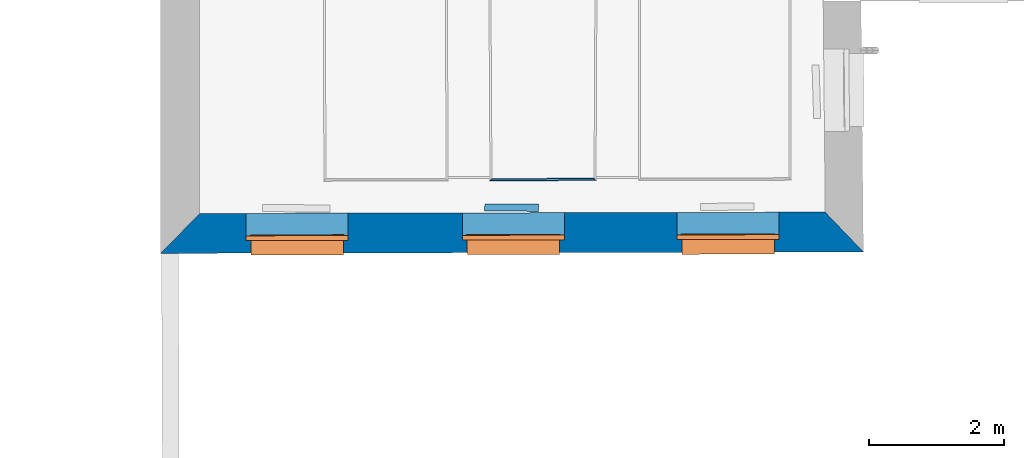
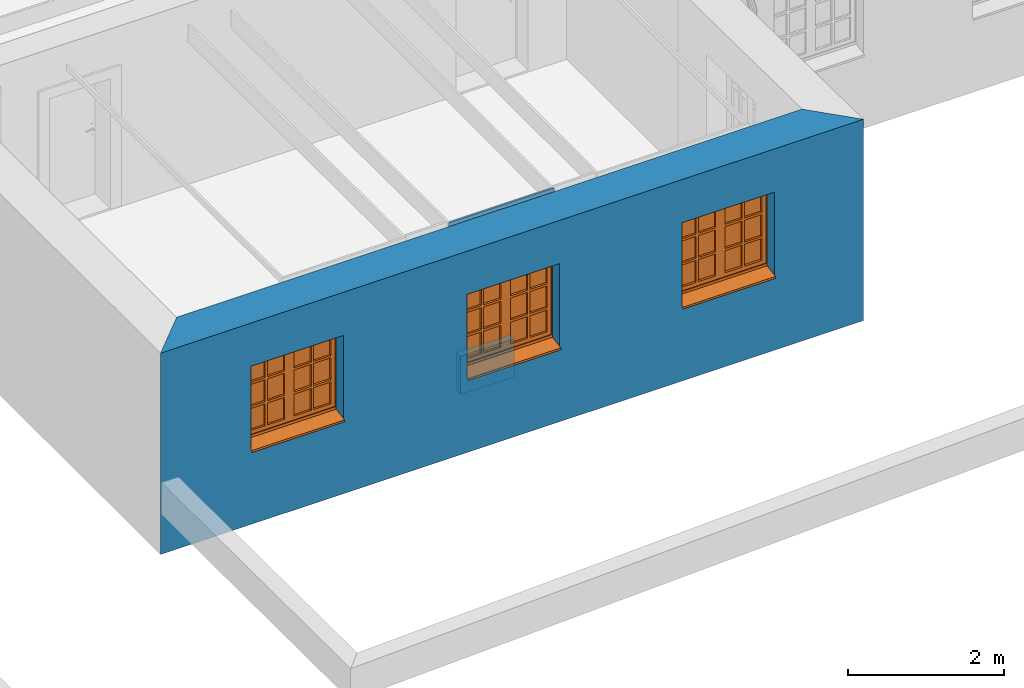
# One storey, part 18 of 196: 3 proxies, 3 walls, 3 openings.
"""IFC2X3 building model written with IfcOpenShell, lengths in metres."""

from ifc_helpers import new_model, entity, si_unit, converted_unit, derived_unit, money_unit, direction, frame, origin_with_axes, origin_2d_with_axis, place, context, subcontext, project, spatial, polyline, rectangle, outline, extrude, open_shell, faceted_brep, surface_model, source, transform, mapped, material, layer, layer_set, layer_usage, type_object, element, fill, save


model = new_model("IFC2X3")

# Units and contexts
model_context = context("Model", 3, precision=1e-05, world=origin_with_axes(), true_north=direction((0.0, 1.0)))
body_context = subcontext(model_context, "Body", "Model", "MODEL_VIEW")
ifc_project = project(units=[si_unit("LENGTHUNIT", "METRE"), si_unit("AREAUNIT", "SQUARE_METRE"), si_unit("VOLUMEUNIT", "CUBIC_METRE"), converted_unit("PLANEANGLEUNIT", "DEGREE", entity("IfcPlaneAngleMeasure", 0.0174532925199), si_unit("PLANEANGLEUNIT", "RADIAN"), dimensions=[0, 0, 0, 0, 0, 0, 0]), money_unit("EUR"), converted_unit("TIMEUNIT", "Year", entity("IfcTimeMeasure", 31556926.0), si_unit("TIMEUNIT", "SECOND"), dimensions=[0, 0, 1, 0, 0, 0, 0]), si_unit("MASSUNIT", "GRAM", prefix="KILO"), si_unit("THERMODYNAMICTEMPERATUREUNIT", "DEGREE_CELSIUS"), si_unit("LUMINOUSINTENSITYUNIT", "LUMEN"), si_unit("ENERGYUNIT", "JOULE", prefix="MEGA"), derived_unit("THERMALCONDUCTANCEUNIT", [(si_unit("POWERUNIT", "WATT"), 1), (si_unit("LENGTHUNIT", "METRE"), -1), (si_unit("THERMODYNAMICTEMPERATUREUNIT", "KELVIN"), -1)]), derived_unit("SPECIFICHEATCAPACITYUNIT", [(si_unit("ENERGYUNIT", "JOULE"), 1), (si_unit("MASSUNIT", "GRAM", prefix="KILO"), -1), (si_unit("THERMODYNAMICTEMPERATUREUNIT", "KELVIN"), -1)]), derived_unit("MASSDENSITYUNIT", [(si_unit("MASSUNIT", "GRAM", prefix="KILO"), 1), (si_unit("VOLUMEUNIT", "CUBIC_METRE"), -1)])], contexts=[model_context])

# Site, building, storey
site_placement = place(None, origin_with_axes())
site = spatial("IfcSite", under=ifc_project, at=site_placement, Name="Gelände", CompositionType="ELEMENT")
building_placement = place(site_placement, origin_with_axes())
building = spatial("IfcBuilding", under=site, at=building_placement, Name="Gebäude", CompositionType="ELEMENT")
storey_placement = place(building_placement, frame((0.0, 0.0, -3.0), z_axis=(0.0, 0.0, 1.0), x_axis=(1.0, 0.0, 0.0)))
storey = spatial("IfcBuildingStorey", under=building, at=storey_placement, Name="KELLERGESCHOSS", CompositionType="ELEMENT", Elevation=-3.0)

# Walls
ifc_material_1 = material(Name="43_Gipskarton")
ifc_layer_1 = layer(ifc_material_1, 0.03, ventilated="UNKNOWN")
ifc_layer_set_1 = layer_set([ifc_layer_1], Name="43_Gipskarton 0.03")
ifc_layer_usage_1 = layer_usage(ifc_layer_set_1, "AXIS2", "NEGATIVE", 0.0)
wall_type_1 = type_object("IfcWallType", Name="43_Gipskarton 30", PredefinedType="ELEMENTEDWALL")
wall_1_placement = place(storey_placement, frame((-23.2013683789, 7.30718156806, 2.37), z_axis=(0.0, 0.0, 1.0), x_axis=(0.99999756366, 0.00220741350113, 0.0)))
element("IfcWallStandardCase", 1, at=wall_1_placement, inside=storey, type_object=wall_type_1, material=ifc_layer_usage_1, Name="Wand-050", ObjectType="ELEMENTEDWALL", context=body_context, shape_type="SweptSolid", body=[
    extrude(outline(polyline([(-0.0299020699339, -0.03), (1.54115883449, -0.03), (1.51137086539, 0.0), (0.0, 0.0), (-0.0299020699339, -0.03)])), origin_with_axes(), (0.0, 0.0, 1.0), 0.09),
])
ifc_material_2 = material(Name="01_ALLGEMEIN - BAUTEIL")
ifc_layer_2 = layer(ifc_material_2, 0.105, ventilated="UNKNOWN")
ifc_layer_set_2 = layer_set([ifc_layer_2], Name="01_ALLGEMEIN - BAUTEIL 0.105")
ifc_layer_usage_2 = layer_usage(ifc_layer_set_2, "AXIS2", "NEGATIVE", 0.0)
wall_type_2 = type_object("IfcWallType", Name="01_ALLGEMEIN - BAUTEIL 105", PredefinedType="ELEMENTEDWALL")
wall_2_placement = place(storey_placement, frame((-23.3081918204, 6.93317799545, 0.0805299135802), z_axis=(0.0, 0.0, 1.0), x_axis=(0.999976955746, -0.00678881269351, 0.0)))
element("IfcWallStandardCase", 2, at=wall_2_placement, inside=storey, type_object=wall_type_2, material=ifc_layer_usage_2, Name="Wand-037", ObjectType="ELEMENTEDWALL", context=body_context, shape_type="SweptSolid", body=[
    extrude(outline(polyline([(0.0, -0.105), (0.795119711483, -0.105), (0.795119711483, 0.0), (0.0, 0.0), (0.0, -0.105)])), origin_with_axes(), (0.0, 0.0, 1.0), 0.597873),
])

# Wall, openings, proxies
ifc_material_3 = material(Name="05_ALLGEMEIN - TRAGENDE BAUTEILE")
ifc_layer_3 = layer(ifc_material_3, 0.59, ventilated="UNKNOWN")
ifc_layer_set_3 = layer_set([ifc_layer_3], Name="05_ALLGEMEIN - TRAGENDE BAUTEILE 0.59")
ifc_layer_usage_3 = layer_usage(ifc_layer_set_3, "AXIS2", "NEGATIVE", 0.59)
wall_type_3 = type_object("IfcWallType", Name="05_ALLGEMEIN - TRAGENDE BAUTEILE 590", PredefinedType="ELEMENTEDWALL")
wall_3_placement = place(storey_placement, frame((-28.1098465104, 6.20005339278, -0.36), z_axis=(0.0, 0.0, 1.0), x_axis=(0.999997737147, 0.00212736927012, 0.0)))
wall_3 = element("IfcWallStandardCase", 3, at=wall_3_placement, inside=storey, type_object=wall_type_3, material=ifc_layer_usage_3, Name="Wand-028", ObjectType="ELEMENTEDWALL", context=body_context, shape_type="SweptSolid", body=[
    extrude(outline(polyline([(0.0, 0.0), (10.4101637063, 0.0), (9.84566785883, 0.59), (0.580704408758, 0.59), (0.0, 0.0)])), origin_with_axes(), (0.0, 0.0, 1.0), 3.15),
])
opening_1_placement = place(wall_3_placement, frame((8.40653235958, 0.0, 1.16872266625), z_axis=(0.0, 0.0, 1.0), x_axis=(1.0, 0.0, 0.0)))
opening_1 = element("IfcOpeningElement", 4, at=opening_1_placement, cuts=wall_3, Name="Fenster-015", context=body_context, shape_type="SweptSolid", body=[
    extrude(rectangle(XDim=1.51, YDim=1.37626033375, at=origin_2d_with_axis()), frame((0.0, 0.187384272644, 0.688130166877), z_axis=(0.0, -1.0, 0.0), x_axis=(1.0, 0.0, 0.0)), (0.0, 0.0, -1.0), 0.992615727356),
    extrude(rectangle(XDim=1.37, YDim=1.30626033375, at=origin_2d_with_axis()), frame((0.0, 0.187384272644, 0.653130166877), z_axis=(0.0, 1.0, 0.0), x_axis=(1.0, 0.0, 0.0)), (0.0, 0.0, -1.0), 0.777384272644),
])
opening_2_placement = place(wall_3_placement, frame((5.22725490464, 0.0, 1.16872266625), z_axis=(0.0, 0.0, 1.0), x_axis=(1.0, 0.0, 0.0)))
opening_2 = element("IfcOpeningElement", 5, at=opening_2_placement, cuts=wall_3, Name="Fenster-015", context=body_context, shape_type="SweptSolid", body=[
    extrude(rectangle(XDim=1.51, YDim=1.37626033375, at=origin_2d_with_axis()), frame((0.0, 0.187384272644, 0.688130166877), z_axis=(0.0, -1.0, 0.0), x_axis=(1.0, 0.0, 0.0)), (0.0, 0.0, -1.0), 0.992615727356),
    extrude(rectangle(XDim=1.37, YDim=1.30626033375, at=origin_2d_with_axis()), frame((0.0, 0.187384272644, 0.653130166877), z_axis=(0.0, 1.0, 0.0), x_axis=(1.0, 0.0, 0.0)), (0.0, 0.0, -1.0), 0.777384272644),
])
opening_3_placement = place(wall_3_placement, frame((2.02436248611, 0.0, 1.16872266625), z_axis=(0.0, 0.0, 1.0), x_axis=(1.0, 0.0, 0.0)))
opening_3 = element("IfcOpeningElement", 6, at=opening_3_placement, cuts=wall_3, Name="Fenster-015", context=body_context, shape_type="SweptSolid", body=[
    extrude(rectangle(XDim=1.51, YDim=1.37626033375, at=origin_2d_with_axis()), frame((0.0, 0.187384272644, 0.688130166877), z_axis=(0.0, -1.0, 0.0), x_axis=(1.0, 0.0, 0.0)), (0.0, 0.0, -1.0), 0.992615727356),
    extrude(rectangle(XDim=1.37, YDim=1.30626033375, at=origin_2d_with_axis()), frame((0.0, 0.187384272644, 0.653130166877), z_axis=(0.0, 1.0, 0.0), x_axis=(1.0, 0.0, 0.0)), (0.0, 0.0, -1.0), 0.777384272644),
])
building_element_proxy_type = type_object("IfcBuildingElementProxyType", Name="2-Flügelfenster 25", PredefinedType="NOTDEFINED")
shared_shape = source(origin_with_axes(), body_context, "Body", "SurfaceModel", [
    surface_model("IfcShellBasedSurfaceModel", [(-0.685, -0.071, 0.05), (-0.685, -0.071, 0.04), (0.685, -0.071, 0.04), (0.685, -0.071, 0.05), (-0.685, -0.287384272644, 0.00519703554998), (0.685, -0.287384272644, 0.00519703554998), (-0.685, -0.287384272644, -0.02480296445), (0.685, -0.287384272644, -0.02480296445), (-0.685, -0.272384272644, -0.00980296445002), (0.685, -0.272384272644, -0.00980296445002)], [open_shell([[[0, 1, 2, 3]], [[1, 4, 5, 2]], [[4, 6, 7, 5]], [[6, 8, 9, 7]]])]),
    faceted_brep([(-0.685, -0.07, 0.0389871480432), (-0.685, -0.257384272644, 0.00884850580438), (0.685, -0.257384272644, 0.00884850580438), (0.685, -0.07, 0.0389871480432), (-0.685, -0.07, 0.0), (-0.685, -0.257384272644, 0.0), (0.685, -0.257384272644, 0.0), (0.685, -0.07, 0.0)], [[[0, 1, 2, 3]], [[0, 4, 5, 1]], [[1, 5, 6, 2]], [[3, 2, 6, 7]], [[4, 0, 3, 7]], [[5, 4, 7, 6]]]),
    faceted_brep([(-0.755, -0.07, 0.0), (-0.755, 0.0, 0.0), (-0.675, 0.0, 0.08), (-0.675, -0.07, 0.08), (-0.755, -0.07, 1.37626033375), (-0.755, 0.0, 1.37626033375), (-0.675, 0.0, 1.29626033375), (-0.675, -0.07, 1.29626033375)], [[[0, 1, 2, 3]], [[4, 5, 1, 0]], [[1, 5, 6, 2]], [[3, 2, 6, 7]], [[0, 3, 7, 4]], [[7, 6, 5, 4]]]),
    faceted_brep([(0.755, -0.07, 0.0), (0.755, 0.0, 0.0), (0.755, 0.0, 1.37626033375), (0.755, -0.07, 1.37626033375), (0.675, -0.07, 0.08), (0.675, 0.0, 0.08), (0.675, 0.0, 1.29626033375), (0.675, -0.07, 1.29626033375)], [[[0, 1, 2, 3]], [[4, 5, 1, 0]], [[1, 5, 6, 2]], [[3, 2, 6, 7]], [[0, 3, 7, 4]], [[7, 6, 5, 4]]]),
    faceted_brep([(-0.755, -0.07, 0.0), (-0.755, 0.0, 0.0), (0.755, 0.0, 0.0), (0.755, -0.07, 0.0), (-0.675, -0.07, 0.08), (-0.675, 0.0, 0.08), (0.0, 0.0, 0.08), (0.675, 0.0, 0.08), (0.675, -0.07, 0.08), (0.0, -0.07, 0.08)], [[[0, 1, 2, 3]], [[4, 5, 1, 0]], [[1, 5, 6, 7, 2]], [[3, 2, 7, 8]], [[0, 3, 8, 9, 4]], [[9, 6, 5, 4]], [[8, 7, 6, 9]]]),
    faceted_brep([(-0.755, -0.07, 1.37626033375), (-0.755, 0.0, 1.37626033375), (-0.675, 0.0, 1.29626033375), (-0.675, -0.07, 1.29626033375), (0.755, -0.07, 1.37626033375), (0.755, 0.0, 1.37626033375), (0.675, 0.0, 1.29626033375), (0.0, 0.0, 1.29626033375), (0.0, -0.07, 1.29626033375), (0.675, -0.07, 1.29626033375)], [[[0, 1, 2, 3]], [[4, 5, 1, 0]], [[1, 5, 6, 7, 2]], [[3, 2, 7, 8]], [[0, 3, 8, 9, 4]], [[9, 6, 5, 4]], [[8, 7, 6, 9]]]),
    faceted_brep([(-0.695, 0.0, 0.06), (-0.695, 0.013, 0.06), (-0.615, 0.013, 0.14), (-0.615, 0.0, 0.14), (-0.695, 0.0, 1.31626033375), (-0.695, 0.013, 1.31626033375), (-0.615, 0.013, 1.23626033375), (-0.615, 0.0, 1.23626033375)], [[[0, 1, 2, 3]], [[4, 5, 1, 0]], [[1, 5, 6, 2]], [[3, 2, 6, 7]], [[0, 3, 7, 4]], [[7, 6, 5, 4]]]),
    faceted_brep([(-0.01, 0.0, 0.06), (-0.01, 0.013, 0.06), (-0.01, 0.013, 1.31626033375), (-0.01, 0.0, 1.31626033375), (-0.07, 0.0, 0.14), (-0.07, 0.013, 0.14), (-0.07, 0.013, 1.23626033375), (-0.07, 0.0, 1.23626033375)], [[[0, 1, 2, 3]], [[4, 5, 1, 0]], [[1, 5, 6, 2]], [[3, 2, 6, 7]], [[0, 3, 7, 4]], [[7, 6, 5, 4]]]),
    faceted_brep([(-0.695, 0.0, 0.06), (-0.695, 0.013, 0.06), (-0.01, 0.013, 0.06), (-0.01, 0.0, 0.06), (-0.615, 0.0, 0.14), (-0.615, 0.013, 0.14), (-0.07, 0.013, 0.14), (-0.07, 0.0, 0.14)], [[[0, 1, 2, 3]], [[4, 5, 1, 0]], [[1, 5, 6, 2]], [[3, 2, 6, 7]], [[0, 3, 7, 4]], [[7, 6, 5, 4]]]),
    faceted_brep([(-0.695, 0.0, 1.31626033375), (-0.695, 0.013, 1.31626033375), (-0.615, 0.013, 1.23626033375), (-0.615, 0.0, 1.23626033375), (-0.01, 0.0, 1.31626033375), (-0.01, 0.013, 1.31626033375), (-0.07, 0.013, 1.23626033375), (-0.07, 0.0, 1.23626033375)], [[[0, 1, 2, 3]], [[4, 5, 1, 0]], [[1, 5, 6, 2]], [[3, 2, 6, 7]], [[0, 3, 7, 4]], [[7, 6, 5, 4]]]),
    faceted_brep([(-0.675, -0.057, 0.08), (-0.675, 0.0, 0.08), (-0.615, 0.0, 0.14), (-0.615, -0.057, 0.14), (-0.675, -0.057, 1.29626033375), (-0.675, 0.0, 1.29626033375), (-0.615, 0.0, 1.23626033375), (-0.615, -0.057, 1.23626033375)], [[[0, 1, 2, 3]], [[4, 5, 1, 0]], [[1, 5, 6, 2]], [[3, 2, 6, 7]], [[0, 3, 7, 4]], [[7, 6, 5, 4]]]),
    faceted_brep([(0.01, -0.057, 0.08), (0.01, 0.0, 0.08), (0.01, 0.0, 1.29626033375), (0.01, -0.057, 1.29626033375), (-0.07, -0.057, 0.14), (-0.07, 0.0, 0.14), (-0.07, 0.0, 1.23626033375), (-0.07, -0.057, 1.23626033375)], [[[0, 1, 2, 3]], [[4, 5, 1, 0]], [[1, 5, 6, 2]], [[3, 2, 6, 7]], [[0, 3, 7, 4]], [[7, 6, 5, 4]]]),
    faceted_brep([(-0.675, -0.057, 0.08), (-0.675, 0.0, 0.08), (0.01, 0.0, 0.08), (0.01, -0.057, 0.08), (-0.615, -0.057, 0.14), (-0.615, 0.0, 0.14), (-0.07, 0.0, 0.14), (-0.07, -0.057, 0.14)], [[[0, 1, 2, 3]], [[4, 5, 1, 0]], [[1, 5, 6, 2]], [[3, 2, 6, 7]], [[0, 3, 7, 4]], [[7, 6, 5, 4]]]),
    faceted_brep([(-0.675, -0.057, 1.29626033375), (-0.675, 0.0, 1.29626033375), (-0.615, 0.0, 1.23626033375), (-0.615, -0.057, 1.23626033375), (0.01, -0.057, 1.29626033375), (0.01, 0.0, 1.29626033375), (-0.07, 0.0, 1.23626033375), (-0.07, -0.057, 1.23626033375)], [[[0, 1, 2, 3]], [[4, 5, 1, 0]], [[1, 5, 6, 2]], [[3, 2, 6, 7]], [[0, 3, 7, 4]], [[7, 6, 5, 4]]]),
    faceted_brep([(-0.36, -0.057, 0.14), (-0.36, -0.022, 0.14), (-0.325, -0.022, 0.14), (-0.325, -0.057, 0.14), (-0.36, -0.057, 1.23626033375), (-0.36, -0.022, 1.23626033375), (-0.325, -0.022, 1.23626033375), (-0.325, -0.057, 1.23626033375)], [[[0, 1, 2, 3]], [[4, 5, 1, 0]], [[1, 5, 6, 2]], [[3, 2, 6, 7]], [[0, 3, 7, 4]], [[7, 6, 5, 4]]]),
    faceted_brep([(-0.36, -0.022, 0.14), (-0.36, 0.013, 0.14), (-0.325, 0.013, 0.14), (-0.325, -0.022, 0.14), (-0.36, -0.022, 1.23626033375), (-0.36, 0.013, 1.23626033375), (-0.325, 0.013, 1.23626033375), (-0.325, -0.022, 1.23626033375)], [[[0, 1, 2, 3]], [[4, 5, 1, 0]], [[1, 5, 6, 2]], [[3, 2, 6, 7]], [[0, 3, 7, 4]], [[7, 6, 5, 4]]]),
    faceted_brep([(-0.36, -0.057, 0.482086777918), (-0.36, -0.057, 0.517086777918), (-0.615, -0.057, 0.517086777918), (-0.615, -0.057, 0.482086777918), (-0.36, -0.022, 0.517086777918), (-0.36, -0.022, 0.482086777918), (-0.615, -0.022, 0.517086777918), (-0.615, -0.022, 0.482086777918)], [[[0, 1, 2, 3]], [[4, 1, 0, 5]], [[1, 4, 6, 2]], [[6, 7, 3, 2]], [[5, 0, 3, 7]], [[4, 5, 7, 6]]]),
    faceted_brep([(-0.325, -0.022, 0.517086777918), (-0.325, -0.057, 0.517086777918), (-0.07, -0.057, 0.517086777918), (-0.07, -0.022, 0.517086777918), (-0.325, -0.057, 0.482086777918), (-0.325, -0.022, 0.482086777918), (-0.07, -0.057, 0.482086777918), (-0.07, -0.022, 0.482086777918)], [[[0, 1, 2, 3]], [[4, 1, 0, 5]], [[1, 4, 6, 2]], [[7, 3, 2, 6]], [[5, 0, 3, 7]], [[4, 5, 7, 6]]]),
    faceted_brep([(-0.36, -0.022, 0.482086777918), (-0.36, -0.022, 0.517086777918), (-0.615, -0.022, 0.517086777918), (-0.615, -0.022, 0.482086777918), (-0.36, 0.013, 0.517086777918), (-0.36, 0.013, 0.482086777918), (-0.615, 0.013, 0.517086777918), (-0.615, 0.013, 0.482086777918)], [[[0, 1, 2, 3]], [[4, 1, 0, 5]], [[1, 4, 6, 2]], [[6, 7, 3, 2]], [[5, 0, 3, 7]], [[4, 5, 7, 6]]]),
    faceted_brep([(-0.325, 0.013, 0.517086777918), (-0.325, -0.022, 0.517086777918), (-0.07, -0.022, 0.517086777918), (-0.07, 0.013, 0.517086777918), (-0.325, -0.022, 0.482086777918), (-0.325, 0.013, 0.482086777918), (-0.07, -0.022, 0.482086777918), (-0.07, 0.013, 0.482086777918)], [[[0, 1, 2, 3]], [[4, 1, 0, 5]], [[1, 4, 6, 2]], [[7, 3, 2, 6]], [[5, 0, 3, 7]], [[4, 5, 7, 6]]]),
    faceted_brep([(-0.36, -0.057, 0.859173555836), (-0.36, -0.057, 0.894173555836), (-0.615, -0.057, 0.894173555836), (-0.615, -0.057, 0.859173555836), (-0.36, -0.022, 0.894173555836), (-0.36, -0.022, 0.859173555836), (-0.615, -0.022, 0.894173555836), (-0.615, -0.022, 0.859173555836)], [[[0, 1, 2, 3]], [[4, 1, 0, 5]], [[1, 4, 6, 2]], [[6, 7, 3, 2]], [[5, 0, 3, 7]], [[4, 5, 7, 6]]]),
    faceted_brep([(-0.325, -0.022, 0.894173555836), (-0.325, -0.057, 0.894173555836), (-0.07, -0.057, 0.894173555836), (-0.07, -0.022, 0.894173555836), (-0.325, -0.057, 0.859173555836), (-0.325, -0.022, 0.859173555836), (-0.07, -0.057, 0.859173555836), (-0.07, -0.022, 0.859173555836)], [[[0, 1, 2, 3]], [[4, 1, 0, 5]], [[1, 4, 6, 2]], [[7, 3, 2, 6]], [[5, 0, 3, 7]], [[4, 5, 7, 6]]]),
    faceted_brep([(-0.36, -0.022, 0.859173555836), (-0.36, -0.022, 0.894173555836), (-0.615, -0.022, 0.894173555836), (-0.615, -0.022, 0.859173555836), (-0.36, 0.013, 0.894173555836), (-0.36, 0.013, 0.859173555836), (-0.615, 0.013, 0.894173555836), (-0.615, 0.013, 0.859173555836)], [[[0, 1, 2, 3]], [[4, 1, 0, 5]], [[1, 4, 6, 2]], [[6, 7, 3, 2]], [[5, 0, 3, 7]], [[4, 5, 7, 6]]]),
    faceted_brep([(-0.325, 0.013, 0.894173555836), (-0.325, -0.022, 0.894173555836), (-0.07, -0.022, 0.894173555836), (-0.07, 0.013, 0.894173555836), (-0.325, -0.022, 0.859173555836), (-0.325, 0.013, 0.859173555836), (-0.07, -0.022, 0.859173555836), (-0.07, 0.013, 0.859173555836)], [[[0, 1, 2, 3]], [[4, 1, 0, 5]], [[1, 4, 6, 2]], [[7, 3, 2, 6]], [[5, 0, 3, 7]], [[4, 5, 7, 6]]]),
    faceted_brep([(-0.36, -0.017, 0.859173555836), (-0.36, -0.027, 0.859173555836), (-0.36, -0.027, 0.517086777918), (-0.36, -0.017, 0.517086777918), (-0.615, -0.027, 0.859173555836), (-0.615, -0.017, 0.859173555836), (-0.615, -0.027, 0.517086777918), (-0.615, -0.017, 0.517086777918)], [[[0, 1, 2, 3]], [[4, 1, 0, 5]], [[1, 4, 6, 2]], [[2, 6, 7, 3]], [[5, 0, 3, 7]], [[4, 5, 7, 6]]]),
    faceted_brep([(-0.07, -0.027, 0.14), (-0.07, -0.017, 0.14), (-0.07, -0.017, 0.482086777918), (-0.07, -0.027, 0.482086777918), (-0.325, -0.027, 0.14), (-0.325, -0.017, 0.14), (-0.325, -0.017, 0.482086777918), (-0.325, -0.027, 0.482086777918)], [[[0, 1, 2, 3]], [[0, 4, 5, 1]], [[1, 5, 6, 2]], [[2, 6, 7, 3]], [[4, 0, 3, 7]], [[5, 4, 7, 6]]]),
    faceted_brep([(-0.36, -0.027, 0.14), (-0.36, -0.017, 0.14), (-0.36, -0.017, 0.482086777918), (-0.36, -0.027, 0.482086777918), (-0.615, -0.017, 0.14), (-0.615, -0.027, 0.14), (-0.615, -0.017, 0.482086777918), (-0.615, -0.027, 0.482086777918)], [[[0, 1, 2, 3]], [[4, 1, 0, 5]], [[1, 4, 6, 2]], [[2, 6, 7, 3]], [[5, 0, 3, 7]], [[4, 5, 7, 6]]]),
    faceted_brep([(-0.07, -0.017, 0.859173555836), (-0.07, -0.027, 0.859173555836), (-0.07, -0.027, 0.517086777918), (-0.07, -0.017, 0.517086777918), (-0.325, -0.027, 0.859173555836), (-0.325, -0.017, 0.859173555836), (-0.325, -0.027, 0.517086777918), (-0.325, -0.017, 0.517086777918)], [[[0, 1, 2, 3]], [[4, 1, 0, 5]], [[1, 4, 6, 2]], [[2, 6, 7, 3]], [[5, 0, 3, 7]], [[4, 5, 7, 6]]]),
    faceted_brep([(-0.615, -0.027, 0.894173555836), (-0.36, -0.027, 0.894173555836), (-0.36, -0.027, 1.23626033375), (-0.615, -0.027, 1.23626033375), (-0.36, -0.017, 0.894173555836), (-0.615, -0.017, 0.894173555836), (-0.36, -0.017, 1.23626033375), (-0.615, -0.017, 1.23626033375)], [[[0, 1, 2, 3]], [[4, 1, 0, 5]], [[1, 4, 6, 2]], [[7, 3, 2, 6]], [[5, 0, 3, 7]], [[4, 5, 7, 6]]]),
    faceted_brep([(-0.325, -0.027, 0.894173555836), (-0.07, -0.027, 0.894173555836), (-0.07, -0.027, 1.23626033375), (-0.325, -0.027, 1.23626033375), (-0.07, -0.017, 0.894173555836), (-0.325, -0.017, 0.894173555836), (-0.07, -0.017, 1.23626033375), (-0.325, -0.017, 1.23626033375)], [[[0, 1, 2, 3]], [[4, 1, 0, 5]], [[1, 4, 6, 2]], [[2, 6, 7, 3]], [[5, 0, 3, 7]], [[4, 5, 7, 6]]]),
    faceted_brep([(-0.01, 0.0, 0.06), (-0.01, 0.013, 0.06), (0.07, 0.013, 0.14), (0.07, 0.0, 0.14), (-0.01, 0.0, 1.31626033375), (-0.01, 0.013, 1.31626033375), (0.07, 0.013, 1.23626033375), (0.07, 0.0, 1.23626033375)], [[[0, 1, 2, 3]], [[4, 5, 1, 0]], [[1, 5, 6, 2]], [[3, 2, 6, 7]], [[0, 3, 7, 4]], [[7, 6, 5, 4]]]),
    faceted_brep([(0.695, 0.0, 0.06), (0.615, 0.0, 0.14), (0.615, 0.013, 0.14), (0.695, 0.013, 0.06), (0.695, 0.0, 1.31626033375), (0.615, 0.0, 1.23626033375), (0.615, 0.013, 1.23626033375), (0.695, 0.013, 1.31626033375)], [[[0, 1, 2, 3]], [[0, 4, 5, 1]], [[1, 5, 6, 2]], [[3, 2, 6, 7]], [[4, 0, 3, 7]], [[5, 4, 7, 6]]]),
    faceted_brep([(-0.01, 0.0, 0.06), (-0.01, 0.013, 0.06), (0.695, 0.013, 0.06), (0.695, 0.0, 0.06), (0.07, 0.0, 0.14), (0.07, 0.013, 0.14), (0.615, 0.013, 0.14), (0.615, 0.0, 0.14)], [[[0, 1, 2, 3]], [[4, 5, 1, 0]], [[1, 5, 6, 2]], [[3, 2, 6, 7]], [[0, 3, 7, 4]], [[7, 6, 5, 4]]]),
    faceted_brep([(-0.01, 0.0, 1.31626033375), (0.695, 0.0, 1.31626033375), (0.695, 0.013, 1.31626033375), (-0.01, 0.013, 1.31626033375), (0.07, 0.0, 1.23626033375), (0.615, 0.0, 1.23626033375), (0.615, 0.013, 1.23626033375), (0.07, 0.013, 1.23626033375)], [[[0, 1, 2, 3]], [[0, 4, 5, 1]], [[1, 5, 6, 2]], [[3, 2, 6, 7]], [[4, 0, 3, 7]], [[5, 4, 7, 6]]]),
    faceted_brep([(0.01, -0.057, 0.08), (0.01, 0.0, 0.08), (0.07, 0.0, 0.14), (0.07, -0.057, 0.14), (0.01, -0.057, 1.29626033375), (0.01, 0.0, 1.29626033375), (0.07, 0.0, 1.23626033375), (0.07, -0.057, 1.23626033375)], [[[0, 1, 2, 3]], [[4, 5, 1, 0]], [[1, 5, 6, 2]], [[3, 2, 6, 7]], [[0, 3, 7, 4]], [[7, 6, 5, 4]]]),
    faceted_brep([(0.675, -0.057, 0.08), (0.615, -0.057, 0.14), (0.615, 0.0, 0.14), (0.675, 0.0, 0.08), (0.675, -0.057, 1.29626033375), (0.615, -0.057, 1.23626033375), (0.615, 0.0, 1.23626033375), (0.675, 0.0, 1.29626033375)], [[[0, 1, 2, 3]], [[0, 4, 5, 1]], [[1, 5, 6, 2]], [[3, 2, 6, 7]], [[4, 0, 3, 7]], [[5, 4, 7, 6]]]),
    faceted_brep([(0.01, -0.057, 0.08), (0.01, 0.0, 0.08), (0.675, 0.0, 0.08), (0.675, -0.057, 0.08), (0.07, -0.057, 0.14), (0.07, 0.0, 0.14), (0.615, 0.0, 0.14), (0.615, -0.057, 0.14)], [[[0, 1, 2, 3]], [[4, 5, 1, 0]], [[1, 5, 6, 2]], [[3, 2, 6, 7]], [[0, 3, 7, 4]], [[7, 6, 5, 4]]]),
    faceted_brep([(0.01, -0.057, 1.29626033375), (0.675, -0.057, 1.29626033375), (0.675, 0.0, 1.29626033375), (0.01, 0.0, 1.29626033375), (0.07, -0.057, 1.23626033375), (0.615, -0.057, 1.23626033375), (0.615, 0.0, 1.23626033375), (0.07, 0.0, 1.23626033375)], [[[0, 1, 2, 3]], [[0, 4, 5, 1]], [[1, 5, 6, 2]], [[3, 2, 6, 7]], [[4, 0, 3, 7]], [[5, 4, 7, 6]]]),
    faceted_brep([(0.325, -0.057, 0.14), (0.325, -0.022, 0.14), (0.36, -0.022, 0.14), (0.36, -0.057, 0.14), (0.325, -0.057, 1.23626033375), (0.325, -0.022, 1.23626033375), (0.36, -0.022, 1.23626033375), (0.36, -0.057, 1.23626033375)], [[[0, 1, 2, 3]], [[4, 5, 1, 0]], [[1, 5, 6, 2]], [[3, 2, 6, 7]], [[0, 3, 7, 4]], [[7, 6, 5, 4]]]),
    faceted_brep([(0.325, -0.022, 0.14), (0.325, 0.013, 0.14), (0.36, 0.013, 0.14), (0.36, -0.022, 0.14), (0.325, -0.022, 1.23626033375), (0.325, 0.013, 1.23626033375), (0.36, 0.013, 1.23626033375), (0.36, -0.022, 1.23626033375)], [[[0, 1, 2, 3]], [[4, 5, 1, 0]], [[1, 5, 6, 2]], [[3, 2, 6, 7]], [[0, 3, 7, 4]], [[7, 6, 5, 4]]]),
    faceted_brep([(0.325, -0.057, 0.482086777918), (0.325, -0.057, 0.517086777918), (0.07, -0.057, 0.517086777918), (0.07, -0.057, 0.482086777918), (0.325, -0.022, 0.517086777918), (0.325, -0.022, 0.482086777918), (0.07, -0.022, 0.517086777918), (0.07, -0.022, 0.482086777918)], [[[0, 1, 2, 3]], [[4, 1, 0, 5]], [[1, 4, 6, 2]], [[6, 7, 3, 2]], [[5, 0, 3, 7]], [[4, 5, 7, 6]]]),
    faceted_brep([(0.36, -0.022, 0.517086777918), (0.36, -0.057, 0.517086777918), (0.615, -0.057, 0.517086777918), (0.615, -0.022, 0.517086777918), (0.36, -0.057, 0.482086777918), (0.36, -0.022, 0.482086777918), (0.615, -0.057, 0.482086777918), (0.615, -0.022, 0.482086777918)], [[[0, 1, 2, 3]], [[4, 1, 0, 5]], [[1, 4, 6, 2]], [[7, 3, 2, 6]], [[5, 0, 3, 7]], [[4, 5, 7, 6]]]),
    faceted_brep([(0.325, -0.022, 0.482086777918), (0.325, -0.022, 0.517086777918), (0.07, -0.022, 0.517086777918), (0.07, -0.022, 0.482086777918), (0.325, 0.013, 0.517086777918), (0.325, 0.013, 0.482086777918), (0.07, 0.013, 0.517086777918), (0.07, 0.013, 0.482086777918)], [[[0, 1, 2, 3]], [[4, 1, 0, 5]], [[1, 4, 6, 2]], [[6, 7, 3, 2]], [[5, 0, 3, 7]], [[4, 5, 7, 6]]]),
    faceted_brep([(0.36, 0.013, 0.517086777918), (0.36, -0.022, 0.517086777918), (0.615, -0.022, 0.517086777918), (0.615, 0.013, 0.517086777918), (0.36, -0.022, 0.482086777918), (0.36, 0.013, 0.482086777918), (0.615, -0.022, 0.482086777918), (0.615, 0.013, 0.482086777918)], [[[0, 1, 2, 3]], [[4, 1, 0, 5]], [[1, 4, 6, 2]], [[7, 3, 2, 6]], [[5, 0, 3, 7]], [[4, 5, 7, 6]]]),
    faceted_brep([(0.325, -0.057, 0.859173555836), (0.325, -0.057, 0.894173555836), (0.07, -0.057, 0.894173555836), (0.07, -0.057, 0.859173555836), (0.325, -0.022, 0.894173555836), (0.325, -0.022, 0.859173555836), (0.07, -0.022, 0.894173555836), (0.07, -0.022, 0.859173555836)], [[[0, 1, 2, 3]], [[4, 1, 0, 5]], [[1, 4, 6, 2]], [[6, 7, 3, 2]], [[5, 0, 3, 7]], [[4, 5, 7, 6]]]),
    faceted_brep([(0.36, -0.022, 0.894173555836), (0.36, -0.057, 0.894173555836), (0.615, -0.057, 0.894173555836), (0.615, -0.022, 0.894173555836), (0.36, -0.057, 0.859173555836), (0.36, -0.022, 0.859173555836), (0.615, -0.057, 0.859173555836), (0.615, -0.022, 0.859173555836)], [[[0, 1, 2, 3]], [[4, 1, 0, 5]], [[1, 4, 6, 2]], [[7, 3, 2, 6]], [[5, 0, 3, 7]], [[4, 5, 7, 6]]]),
    faceted_brep([(0.325, -0.022, 0.859173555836), (0.325, -0.022, 0.894173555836), (0.07, -0.022, 0.894173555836), (0.07, -0.022, 0.859173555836), (0.325, 0.013, 0.894173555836), (0.325, 0.013, 0.859173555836), (0.07, 0.013, 0.894173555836), (0.07, 0.013, 0.859173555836)], [[[0, 1, 2, 3]], [[4, 1, 0, 5]], [[1, 4, 6, 2]], [[6, 7, 3, 2]], [[5, 0, 3, 7]], [[4, 5, 7, 6]]]),
    faceted_brep([(0.36, 0.013, 0.894173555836), (0.36, -0.022, 0.894173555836), (0.615, -0.022, 0.894173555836), (0.615, 0.013, 0.894173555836), (0.36, -0.022, 0.859173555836), (0.36, 0.013, 0.859173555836), (0.615, -0.022, 0.859173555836), (0.615, 0.013, 0.859173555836)], [[[0, 1, 2, 3]], [[4, 1, 0, 5]], [[1, 4, 6, 2]], [[7, 3, 2, 6]], [[5, 0, 3, 7]], [[4, 5, 7, 6]]]),
    faceted_brep([(0.325, -0.017, 0.859173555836), (0.325, -0.027, 0.859173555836), (0.325, -0.027, 0.517086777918), (0.325, -0.017, 0.517086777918), (0.07, -0.027, 0.859173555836), (0.07, -0.017, 0.859173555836), (0.07, -0.027, 0.517086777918), (0.07, -0.017, 0.517086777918)], [[[0, 1, 2, 3]], [[4, 1, 0, 5]], [[1, 4, 6, 2]], [[2, 6, 7, 3]], [[5, 0, 3, 7]], [[4, 5, 7, 6]]]),
    faceted_brep([(0.615, -0.027, 0.14), (0.615, -0.017, 0.14), (0.615, -0.017, 0.482086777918), (0.615, -0.027, 0.482086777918), (0.36, -0.027, 0.14), (0.36, -0.017, 0.14), (0.36, -0.017, 0.482086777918), (0.36, -0.027, 0.482086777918)], [[[0, 1, 2, 3]], [[0, 4, 5, 1]], [[1, 5, 6, 2]], [[2, 6, 7, 3]], [[4, 0, 3, 7]], [[5, 4, 7, 6]]]),
    faceted_brep([(0.325, -0.027, 0.14), (0.325, -0.017, 0.14), (0.325, -0.017, 0.482086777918), (0.325, -0.027, 0.482086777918), (0.07, -0.017, 0.14), (0.07, -0.027, 0.14), (0.07, -0.017, 0.482086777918), (0.07, -0.027, 0.482086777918)], [[[0, 1, 2, 3]], [[4, 1, 0, 5]], [[1, 4, 6, 2]], [[2, 6, 7, 3]], [[5, 0, 3, 7]], [[4, 5, 7, 6]]]),
    faceted_brep([(0.615, -0.017, 0.859173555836), (0.615, -0.027, 0.859173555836), (0.615, -0.027, 0.517086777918), (0.615, -0.017, 0.517086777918), (0.36, -0.027, 0.859173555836), (0.36, -0.017, 0.859173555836), (0.36, -0.027, 0.517086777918), (0.36, -0.017, 0.517086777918)], [[[0, 1, 2, 3]], [[4, 1, 0, 5]], [[1, 4, 6, 2]], [[2, 6, 7, 3]], [[5, 0, 3, 7]], [[4, 5, 7, 6]]]),
    faceted_brep([(0.07, -0.027, 0.894173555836), (0.325, -0.027, 0.894173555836), (0.325, -0.027, 1.23626033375), (0.07, -0.027, 1.23626033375), (0.325, -0.017, 0.894173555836), (0.07, -0.017, 0.894173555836), (0.325, -0.017, 1.23626033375), (0.07, -0.017, 1.23626033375)], [[[0, 1, 2, 3]], [[4, 1, 0, 5]], [[1, 4, 6, 2]], [[7, 3, 2, 6]], [[5, 0, 3, 7]], [[4, 5, 7, 6]]]),
    faceted_brep([(0.36, -0.027, 0.894173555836), (0.615, -0.027, 0.894173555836), (0.615, -0.027, 1.23626033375), (0.36, -0.027, 1.23626033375), (0.615, -0.017, 0.894173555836), (0.36, -0.017, 0.894173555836), (0.615, -0.017, 1.23626033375), (0.36, -0.017, 1.23626033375)], [[[0, 1, 2, 3]], [[4, 1, 0, 5]], [[1, 4, 6, 2]], [[2, 6, 7, 3]], [[5, 0, 3, 7]], [[4, 5, 7, 6]]]),
])
proxy_1_placement = place(opening_1_placement, frame((-0.755, 0.0, 0.0), z_axis=(0.0, 0.0, 1.0), x_axis=(1.0, 0.0, 0.0)))
proxy_1 = element("IfcBuildingElementProxy", 7, at=proxy_1_placement, inside=storey, type_object=building_element_proxy_type, Name="Fenster-015", context=body_context, shape_type="MappedRepresentation", body=[
    mapped(shared_shape, transform((0.755, 0.257384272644, 0.0))),
])
fill(opening_1, proxy_1)
proxy_2_placement = place(opening_2_placement, frame((-0.755, 0.0, 0.0), z_axis=(0.0, 0.0, 1.0), x_axis=(1.0, 0.0, 0.0)))
proxy_2 = element("IfcBuildingElementProxy", 8, at=proxy_2_placement, inside=storey, type_object=building_element_proxy_type, Name="Fenster-015", context=body_context, shape_type="MappedRepresentation", body=[
    mapped(shared_shape, transform((0.755, 0.257384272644, 0.0))),
])
fill(opening_2, proxy_2)
proxy_3_placement = place(opening_3_placement, frame((-0.755, 0.0, 0.0), z_axis=(0.0, 0.0, 1.0), x_axis=(1.0, 0.0, 0.0)))
proxy_3 = element("IfcBuildingElementProxy", 9, at=proxy_3_placement, inside=storey, type_object=building_element_proxy_type, Name="Fenster-015", context=body_context, shape_type="MappedRepresentation", body=[
    mapped(shared_shape, transform((0.755, 0.257384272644, 0.0))),
])
fill(opening_3, proxy_3)

save(model, "model.ifc")
